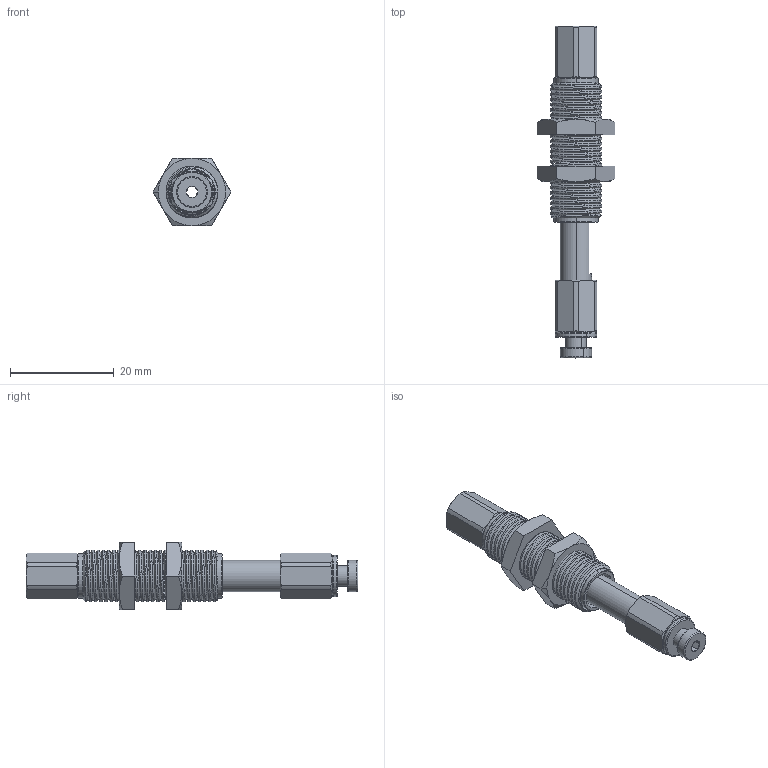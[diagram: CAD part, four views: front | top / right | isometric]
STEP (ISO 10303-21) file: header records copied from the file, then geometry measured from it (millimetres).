
FILE_DESCRIPTION (( 'STEP AP203' ), '1' );
FILE_NAME ('bln04-4bt10nk55-m5-耳6耳4_asm.STEP', '2024-10-29T05:30:50', ( '' ), ( '' ), 'SwSTEP 2.0', 'SolidWorks 2022', '' );
FILE_SCHEMA (( 'CONFIG_CONTROL_DESIGN' ));
Length unit declared in the file: millimetre
Products named in the file (1): bln04-4bt10nk55-m5-φ6φ4_asm
Bounding box: 15.01 x 64 x 13 mm (x, y, z)
Surface area: 3280.4 mm2 (no closed solid volume)
Topology: 0 solids, 11 shells, 230 faces, 631 edges, 412 vertices
Faces by surface type: cone 78, cylinder 77, plane 47, bspline 19, torus 9
Entity records: 14642 total; most frequent: CARTESIAN_POINT 9287, ORIENTED_EDGE 1129, DIRECTION 954, EDGE_CURVE 631, VERTEX_POINT 412, AXIS2_PLACEMENT_3D 395, B_SPLINE_CURVE_WITH_KNOTS 284, EDGE_LOOP 244
